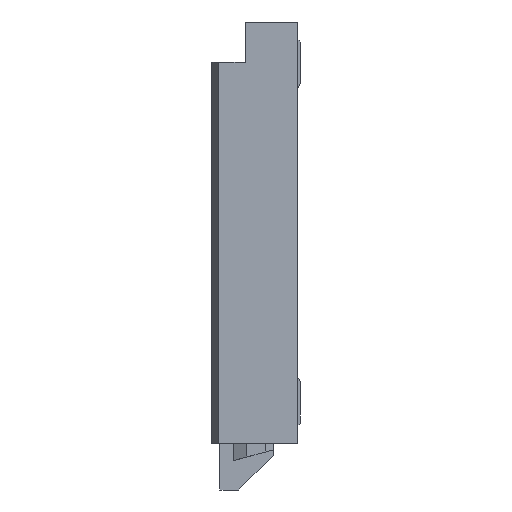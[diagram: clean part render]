
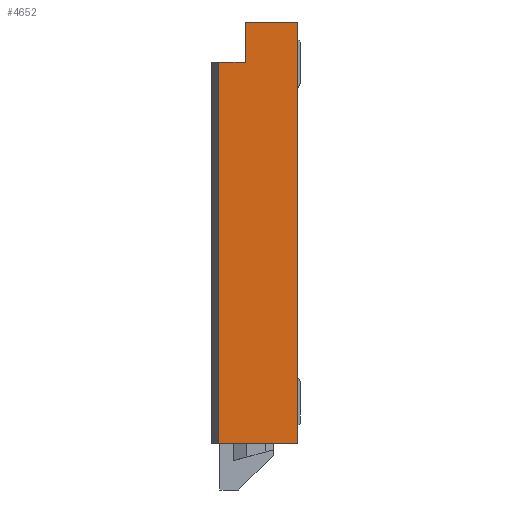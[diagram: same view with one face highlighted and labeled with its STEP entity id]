
A CAD part, left-side view. The second image highlights one B-rep face of the part: STEP entity #4652.
In plain terms, the highlighted planar face has unit normal (-1, 0, 0).
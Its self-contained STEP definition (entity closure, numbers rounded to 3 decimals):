
#4450 = EDGE_CURVE ( 'NONE', #4451, #4452, #9000, .T. ) ;
#4451 = VERTEX_POINT ( 'NONE', #8954 ) ;
#4452 = VERTEX_POINT ( 'NONE', #8953 ) ;
#4455 = ORIENTED_EDGE ( 'NONE', *, *, #4456, .T. ) ;
#4456 = EDGE_CURVE ( 'NONE', #4451, #4653, #8952, .T. ) ;
#4496 = VERTEX_POINT ( 'NONE', #9096 ) ;
#4497 = ORIENTED_EDGE ( 'NONE', *, *, #4498, .F. ) ;
#4498 = EDGE_CURVE ( 'NONE', #4499, #4496, #9131, .T. ) ;
#4499 = VERTEX_POINT ( 'NONE', #9148 ) ;
#4501 = ORIENTED_EDGE ( 'NONE', *, *, #4450, .F. ) ;
#4512 = EDGE_LOOP ( 'NONE', ( #4501, #4455, #4654, #4497, #4557, #4686 ) ) ;
#4557 = ORIENTED_EDGE ( 'NONE', *, *, #4717, .F. ) ;
#4569 = EDGE_CURVE ( 'NONE', #4452, #4687, #9303, .T. ) ;
#4652 = ADVANCED_FACE ( 'NONE', ( #9456 ), #9422, .F. ) ;
#4653 = VERTEX_POINT ( 'NONE', #9413 ) ;
#4654 = ORIENTED_EDGE ( 'NONE', *, *, #4655, .F. ) ;
#4655 = EDGE_CURVE ( 'NONE', #4496, #4653, #9425, .T. ) ;
#4686 = ORIENTED_EDGE ( 'NONE', *, *, #4569, .F. ) ;
#4687 = VERTEX_POINT ( 'NONE', #9442 ) ;
#4717 = EDGE_CURVE ( 'NONE', #4687, #4499, #9491, .T. ) ;
#8949 = DIRECTION ( 'NONE',  ( 0., 1., 0. ) ) ;
#8950 = VECTOR ( 'NONE', #8949, 1000. ) ;
#8951 = CARTESIAN_POINT ( 'NONE',  ( -1.75, 0., -0.3 ) ) ;
#8952 = LINE ( 'NONE', #8951, #8950 ) ;
#8953 = CARTESIAN_POINT ( 'NONE',  ( -1.75, 0.39, 0. ) ) ;
#8954 = CARTESIAN_POINT ( 'NONE',  ( -1.75, 0.39, -0.3 ) ) ;
#8955 = DIRECTION ( 'NONE',  ( 0., 0., 1. ) ) ;
#8956 = VECTOR ( 'NONE', #8955, 1000. ) ;
#8957 = CARTESIAN_POINT ( 'NONE',  ( -1.75, 0.39, 0. ) ) ;
#9000 = LINE ( 'NONE', #8957, #8956 ) ;
#9096 = CARTESIAN_POINT ( 'NONE',  ( -1.75, 0.59, -3.15 ) ) ;
#9125 = CARTESIAN_POINT ( 'NONE',  ( -1.75, 0.64, -3.15 ) ) ;
#9131 = LINE ( 'NONE', #9125, #9150 ) ;
#9148 = CARTESIAN_POINT ( 'NONE',  ( -1.75, 0., -3.15 ) ) ;
#9149 = DIRECTION ( 'NONE',  ( 0., 1., 0. ) ) ;
#9150 = VECTOR ( 'NONE', #9149, 1000. ) ;
#9303 = LINE ( 'NONE', #9326, #9325 ) ;
#9324 = DIRECTION ( 'NONE',  ( 0., -1., 0. ) ) ;
#9325 = VECTOR ( 'NONE', #9324, 1000. ) ;
#9326 = CARTESIAN_POINT ( 'NONE',  ( -1.75, 0.64, 0. ) ) ;
#9410 = DIRECTION ( 'NONE',  ( 0., 0., -1. ) ) ;
#9411 = DIRECTION ( 'NONE',  ( 1., 0., 0. ) ) ;
#9412 = CARTESIAN_POINT ( 'NONE',  ( -1.75, 0., 0. ) ) ;
#9413 = CARTESIAN_POINT ( 'NONE',  ( -1.75, 0.59, -0.3 ) ) ;
#9421 = AXIS2_PLACEMENT_3D ( 'NONE', #9412, #9411, #9410 ) ;
#9422 = PLANE ( 'NONE',  #9421 ) ;
#9424 = CARTESIAN_POINT ( 'NONE',  ( -1.75, 0.59, -3.15 ) ) ;
#9425 = LINE ( 'NONE', #9424, #9459 ) ;
#9442 = CARTESIAN_POINT ( 'NONE',  ( -1.75, 0., 0. ) ) ;
#9456 = FACE_OUTER_BOUND ( 'NONE', #4512, .T. ) ;
#9458 = DIRECTION ( 'NONE',  ( 0., 0., 1. ) ) ;
#9459 = VECTOR ( 'NONE', #9458, 1000. ) ;
#9491 = LINE ( 'NONE', #9586, #9549 ) ;
#9548 = DIRECTION ( 'NONE',  ( 0., 0., -1. ) ) ;
#9549 = VECTOR ( 'NONE', #9548, 1000. ) ;
#9586 = CARTESIAN_POINT ( 'NONE',  ( -1.75, 0., 0. ) ) ;
